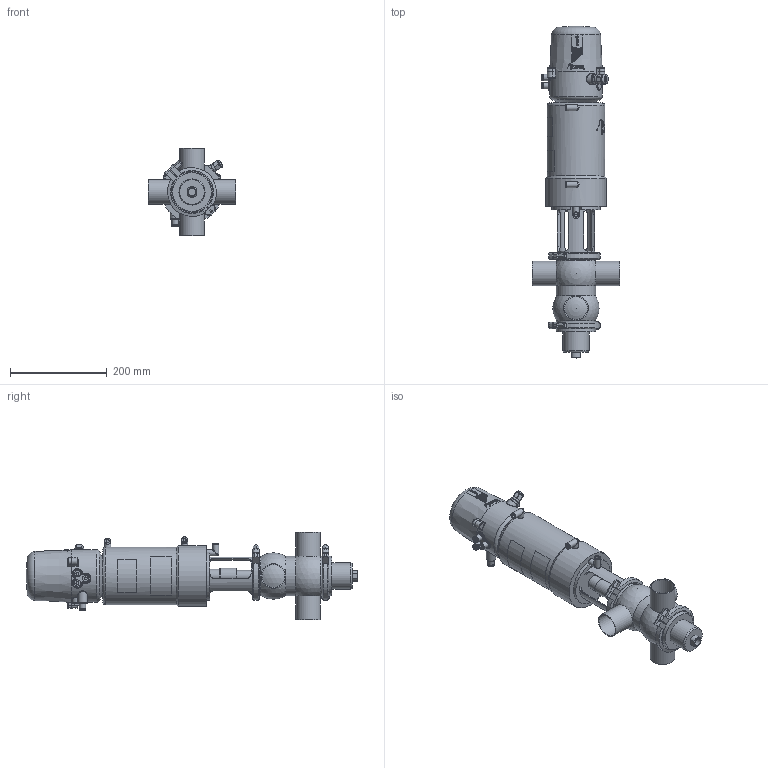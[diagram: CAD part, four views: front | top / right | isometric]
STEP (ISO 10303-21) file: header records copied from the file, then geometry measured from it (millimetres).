
FILE_DESCRIPTION (( 'STEP AP214' ), '1' );
FILE_NAME ('INNOVA P CB-90 W OD 2 & C-TOP S_10.250.16.0015.STEP', '2024-08-09T11:47:14', ( '' ), ( '' ), 'SwSTEP 2.0', 'SolidWorks 2023', '' );
FILE_SCHEMA (( 'AUTOMOTIVE_DESIGN' ));
Length unit declared in the file: millimetre
Products named in the file (7): 10.251.15.0007_OD 2"; 10.426.15.0001_C-TOP S - 3 EV; 10.240.15.0001_DN 050; 10.250.15.0002_Type P T1; 10.250.15.0001_OD 2"; 10.250.15.0003_DN 2"; INNOVA P CB-90 W OD 2 & C-TOP S_10.250.16.0015
Assembly tree (7 placements, depth 2):
  INNOVA P CB-90 W OD 2 & C-TOP S_10.250.16.0015
    10.250.15.0001_OD 2"
    10.250.15.0002_Type P T1
    10.426.15.0001_C-TOP S - 3 EV
    10.251.15.0007_OD 2"
    10.240.15.0001_DN 050  x2
    10.250.15.0003_DN 2"
Bounding box: 180 x 686.5 x 180 mm (x, y, z)
Volume: 5249593.4 mm3; surface area: 421030.1 mm2
Topology: 7 solids, 7 shells, 1211 faces, 2914 edges, 1935 vertices
Faces by surface type: plane 415, cylinder 387, cone 203, bspline 163, torus 33, sphere 10
Full cylindrical faces by diameter (mm): 0.371 x17, 0.512 x16, 0.658 x16, 0.795 x16, 0.94 x15, 1.098 x15, 1.241 x13, 1.382 x13, 1.523 x11, 1.669 x10, 2.201 x1, 4.2 x2, 5 x1, 5.5 x2, 6 x4, 6.15 x3, 8 x5, 10 x1, 10.5 x3, 11 x4, 12.5 x9, 13 x6, 13.5 x2, 16 x1, 17 x3, 20 x2, 22 x2, 23 x1, 28 x1, 31.5 x1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
Entity records: 59267 total; most frequent: CARTESIAN_POINT 27713, ORIENTED_EDGE 4628, DIRECTION 3785, EDGE_CURVE 2314, VERTEX_POINT 1650, EDGE_LOOP 1636, AXIS2_PLACEMENT_3D 1559, FACE_OUTER_BOUND 1382
